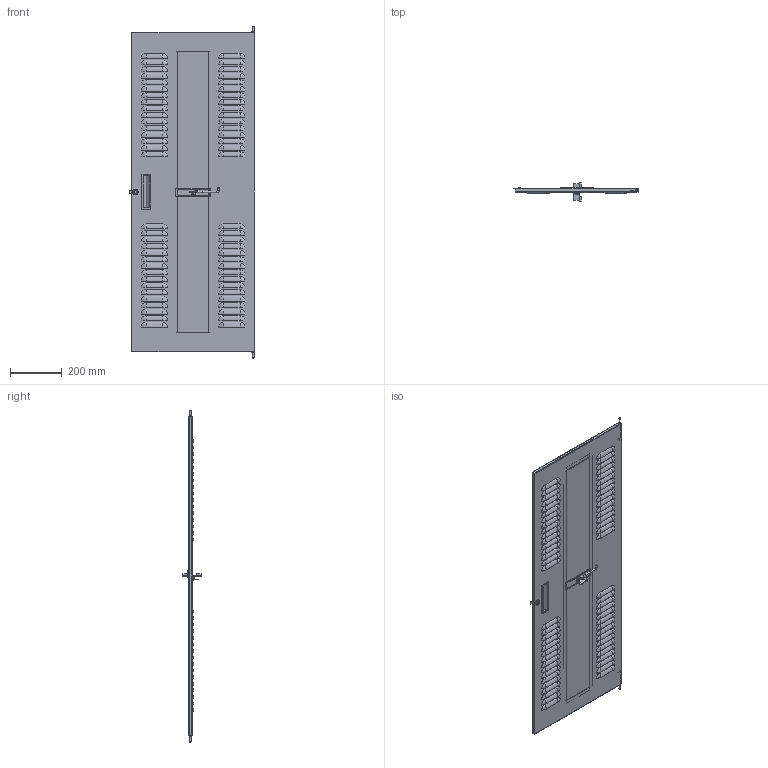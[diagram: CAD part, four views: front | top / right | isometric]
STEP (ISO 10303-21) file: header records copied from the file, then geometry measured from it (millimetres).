
FILE_DESCRIPTION( ( 'Unknown' ), '1' );
FILE_NAME( 'Q:/REFK/DOORS/LOUVERED/WEB DRAWINGS/STEP/RSDL19049.stp', 'Unknown', ( 'Unknown' ), ( 'Unknown' ), 'XStep 1.0', 'Unknown', ' ' );
FILE_SCHEMA( ( 'CONFIG_CONTROL_DESIGN' ) );
Length unit declared in the file: millimetre
Products named in the file (8): Assem1; Assem2; 1; 2; 3; 4; 5; 6
Bounding box: 486.46 x 69.85 x 1286.15 mm (x, y, z)
Volume: 3681157.8 mm3; surface area: 5297843.7 mm2
Topology: 18 solids, 18 shells, 2228 faces, 6697 edges, 3754 vertices
Faces by surface type: plane 825, sphere 768, cylinder 578, bspline 40, cone 11, torus 6
Full cylindrical faces by diameter (mm): 5.182 x3, 6.35 x9, 8.382 x2, 13.868 x2, 13.97 x2, 21.996 x2
Entity records: 24613 total; most frequent: CARTESIAN_POINT 4618, DIRECTION 4457, ORIENTED_EDGE 3952, EDGE_CURVE 1976, AXIS2_PLACEMENT_3D 1768, VERTEX_POINT 1257, CIRCLE 1005, LINE 921
